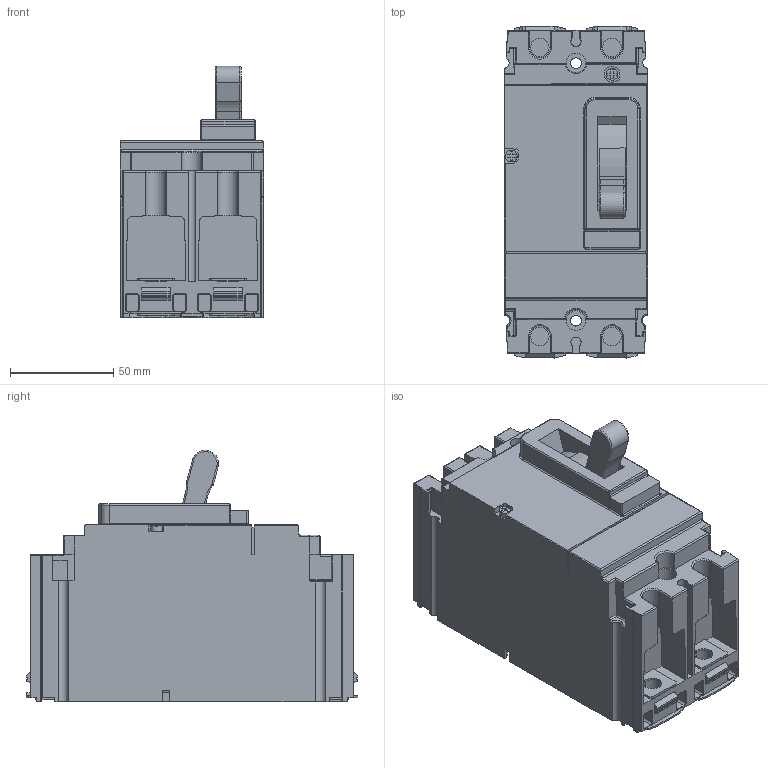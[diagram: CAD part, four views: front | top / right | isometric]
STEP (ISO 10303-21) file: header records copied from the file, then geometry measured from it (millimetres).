
FILE_DESCRIPTION((''),'2;1');
FILE_NAME('ASM0003_ASM','2020-12-11T14:59:22',('user-pc'),('Schneider-Electric'),'CREO PARAMETRIC BY PTC INC, 2018300','CREO PARAMETRIC BY PTC INC, 2018300','');
FILE_SCHEMA(('CONFIG_CONTROL_DESIGN'));
Length unit declared in the file: millimetre
Products named in the file (2): C16S2TM160_3D-SIMPLIFIED; ASM0003_ASM
Assembly tree (1 placements, depth 2):
  ASM0003_ASM
    C16S2TM160_3D-SIMPLIFIED
Bounding box: 69.73 x 161.14 x 122.02 mm (x, y, z)
Volume: 799885.9 mm3; surface area: 89804.5 mm2
Topology: 1 solids, 1 shells, 879 faces, 2359 edges, 1506 vertices
Faces by surface type: plane 463, cylinder 303, bspline 42, torus 40, extrusion 29, sphere 2
Entity records: 30852 total; most frequent: CARTESIAN_POINT 9017, ORIENTED_EDGE 4718, DIRECTION 4287, EDGE_CURVE 2359, VECTOR 1625, LINE 1596, VERTEX_POINT 1506, AXIS2_PLACEMENT_3D 1331
